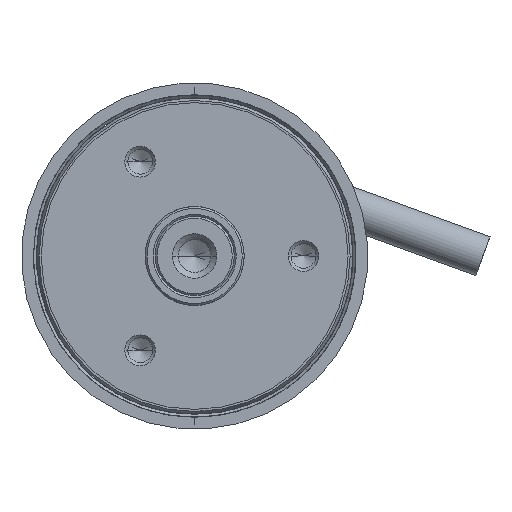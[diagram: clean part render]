
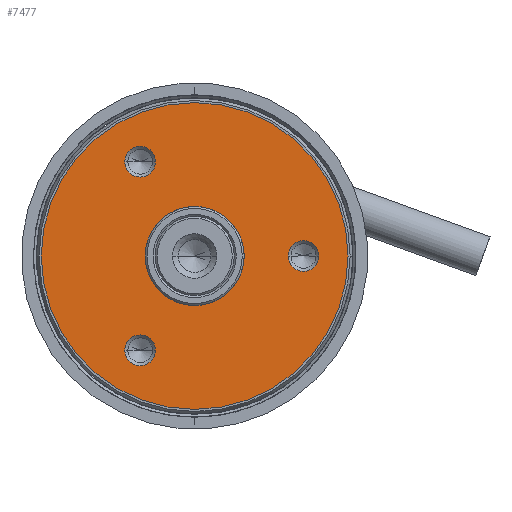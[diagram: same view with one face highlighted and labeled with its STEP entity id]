
A CAD part, left-side view. The second image highlights one B-rep face of the part: STEP entity #7477.
In plain terms, the highlighted planar face has unit normal (-1, 0, 0).
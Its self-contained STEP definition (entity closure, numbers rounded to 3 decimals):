
#76 = VERTEX_POINT ( 'NONE', #10866 ) ;
#130 = AXIS2_PLACEMENT_3D ( 'NONE', #14275, #2986, #6382 ) ;
#299 = ORIENTED_EDGE ( 'NONE', *, *, #13722, .F. ) ;
#339 = DIRECTION ( 'NONE',  ( -1., 0., 0. ) ) ;
#471 = CARTESIAN_POINT ( 'NONE',  ( -29., -11., 0. ) ) ;
#528 = AXIS2_PLACEMENT_3D ( 'NONE', #624, #10626, #11618 ) ;
#624 = CARTESIAN_POINT ( 'NONE',  ( -29., 0., 0. ) ) ;
#731 = AXIS2_PLACEMENT_3D ( 'NONE', #8389, #1706, #6449 ) ;
#792 = VERTEX_POINT ( 'NONE', #2383 ) ;
#1030 = AXIS2_PLACEMENT_3D ( 'NONE', #14404, #2182, #12266 ) ;
#1108 = EDGE_CURVE ( 'NONE', #13243, #10892, #13107, .T. ) ;
#1176 = FACE_BOUND ( 'NONE', #2559, .T. ) ;
#1447 = VERTEX_POINT ( 'NONE', #3078 ) ;
#1587 = CARTESIAN_POINT ( 'NONE',  ( -29., 5.5, -9.526 ) ) ;
#1706 = DIRECTION ( 'NONE',  ( -1., 0., 0. ) ) ;
#1973 = EDGE_LOOP ( 'NONE', ( #14328, #6158 ) ) ;
#2182 = DIRECTION ( 'NONE',  ( -1., 0., 0. ) ) ;
#2235 = EDGE_CURVE ( 'NONE', #2658, #6394, #6334, .T. ) ;
#2383 = CARTESIAN_POINT ( 'NONE',  ( -29., -15.5, 0. ) ) ;
#2559 = EDGE_LOOP ( 'NONE', ( #4447, #6383 ) ) ;
#2658 = VERTEX_POINT ( 'NONE', #4366 ) ;
#2831 = DIRECTION ( 'NONE',  ( -1., 0., 0. ) ) ;
#2876 = CIRCLE ( 'NONE', #4519, 1.55 ) ;
#2986 = DIRECTION ( 'NONE',  ( -1., 0., 0. ) ) ;
#3078 = CARTESIAN_POINT ( 'NONE',  ( -29., 3.95, -9.526 ) ) ;
#3182 = VERTEX_POINT ( 'NONE', #11636 ) ;
#3481 = PLANE ( 'NONE',  #11314 ) ;
#3548 = EDGE_LOOP ( 'NONE', ( #14294, #9459 ) ) ;
#3634 = FACE_OUTER_BOUND ( 'NONE', #1973, .T. ) ;
#3714 = EDGE_LOOP ( 'NONE', ( #12835, #9913 ) ) ;
#3743 = CARTESIAN_POINT ( 'NONE',  ( -29., 5.5, -9.526 ) ) ;
#3744 = EDGE_CURVE ( 'NONE', #6394, #2658, #6156, .T. ) ;
#3767 = CARTESIAN_POINT ( 'NONE',  ( -29., -11., 0. ) ) ;
#3957 = CARTESIAN_POINT ( 'NONE',  ( -29., -9.45, 0. ) ) ;
#4208 = CIRCLE ( 'NONE', #11916, 15.5 ) ;
#4366 = CARTESIAN_POINT ( 'NONE',  ( -29., -5., 0. ) ) ;
#4447 = ORIENTED_EDGE ( 'NONE', *, *, #3744, .F. ) ;
#4519 = AXIS2_PLACEMENT_3D ( 'NONE', #3767, #11742, #9477 ) ;
#4766 = CIRCLE ( 'NONE', #130, 1.55 ) ;
#5605 = AXIS2_PLACEMENT_3D ( 'NONE', #7690, #13340, #10975 ) ;
#5716 = FACE_BOUND ( 'NONE', #7901, .T. ) ;
#5777 = EDGE_CURVE ( 'NONE', #10892, #13243, #2876, .T. ) ;
#5987 = DIRECTION ( 'NONE',  ( 0., 1., 0. ) ) ;
#6043 = DIRECTION ( 'NONE',  ( 0., 1., 0. ) ) ;
#6156 = CIRCLE ( 'NONE', #528, 5. ) ;
#6158 = ORIENTED_EDGE ( 'NONE', *, *, #9933, .T. ) ;
#6334 = CIRCLE ( 'NONE', #731, 5. ) ;
#6374 = ORIENTED_EDGE ( 'NONE', *, *, #13784, .F. ) ;
#6382 = DIRECTION ( 'NONE',  ( 0., 1., 0. ) ) ;
#6383 = ORIENTED_EDGE ( 'NONE', *, *, #2235, .F. ) ;
#6394 = VERTEX_POINT ( 'NONE', #11951 ) ;
#6449 = DIRECTION ( 'NONE',  ( 0., 1., 0. ) ) ;
#6537 = DIRECTION ( 'NONE',  ( -1., 0., 0. ) ) ;
#6803 = CARTESIAN_POINT ( 'NONE',  ( -29., 0., 0. ) ) ;
#7314 = CIRCLE ( 'NONE', #9764, 1.55 ) ;
#7477 = ADVANCED_FACE ( 'NONE', ( #1176, #10444, #5716, #9032, #3634 ), #3481, .T. ) ;
#7557 = AXIS2_PLACEMENT_3D ( 'NONE', #471, #2831, #10660 ) ;
#7690 = CARTESIAN_POINT ( 'NONE',  ( -29., 5.5, 9.526 ) ) ;
#7901 = EDGE_LOOP ( 'NONE', ( #299, #6374 ) ) ;
#7925 = DIRECTION ( 'NONE',  ( 0., 1., 0. ) ) ;
#8364 = CIRCLE ( 'NONE', #8617, 1.55 ) ;
#8389 = CARTESIAN_POINT ( 'NONE',  ( -29., 0., 0. ) ) ;
#8613 = VERTEX_POINT ( 'NONE', #9713 ) ;
#8617 = AXIS2_PLACEMENT_3D ( 'NONE', #3743, #339, #5987 ) ;
#9032 = FACE_BOUND ( 'NONE', #3714, .T. ) ;
#9074 = CIRCLE ( 'NONE', #1030, 15.5 ) ;
#9459 = ORIENTED_EDGE ( 'NONE', *, *, #1108, .F. ) ;
#9477 = DIRECTION ( 'NONE',  ( 0., 1., 0. ) ) ;
#9713 = CARTESIAN_POINT ( 'NONE',  ( -29., 3.95, 9.526 ) ) ;
#9764 = AXIS2_PLACEMENT_3D ( 'NONE', #1587, #10434, #6043 ) ;
#9913 = ORIENTED_EDGE ( 'NONE', *, *, #13367, .F. ) ;
#9933 = EDGE_CURVE ( 'NONE', #792, #10579, #9074, .T. ) ;
#10434 = DIRECTION ( 'NONE',  ( -1., 0., 0. ) ) ;
#10444 = FACE_BOUND ( 'NONE', #3548, .T. ) ;
#10579 = VERTEX_POINT ( 'NONE', #13215 ) ;
#10626 = DIRECTION ( 'NONE',  ( -1., 0., 0. ) ) ;
#10660 = DIRECTION ( 'NONE',  ( 0., 1., 0. ) ) ;
#10866 = CARTESIAN_POINT ( 'NONE',  ( -29., 7.05, -9.526 ) ) ;
#10892 = VERTEX_POINT ( 'NONE', #3957 ) ;
#10975 = DIRECTION ( 'NONE',  ( 0., 1., 0. ) ) ;
#11187 = DIRECTION ( 'NONE',  ( 0., 1., 0. ) ) ;
#11305 = DIRECTION ( 'NONE',  ( -1., 0., 0. ) ) ;
#11314 = AXIS2_PLACEMENT_3D ( 'NONE', #6803, #11305, #7925 ) ;
#11618 = DIRECTION ( 'NONE',  ( 0., 1., 0. ) ) ;
#11636 = CARTESIAN_POINT ( 'NONE',  ( -29., 7.05, 9.526 ) ) ;
#11719 = CARTESIAN_POINT ( 'NONE',  ( -29., -12.55, 0. ) ) ;
#11742 = DIRECTION ( 'NONE',  ( -1., 0., 0. ) ) ;
#11747 = EDGE_CURVE ( 'NONE', #3182, #8613, #4766, .T. ) ;
#11916 = AXIS2_PLACEMENT_3D ( 'NONE', #14488, #6537, #11187 ) ;
#11951 = CARTESIAN_POINT ( 'NONE',  ( -29., 5., 0. ) ) ;
#12266 = DIRECTION ( 'NONE',  ( 0., 1., 0. ) ) ;
#12835 = ORIENTED_EDGE ( 'NONE', *, *, #11747, .F. ) ;
#12936 = EDGE_CURVE ( 'NONE', #10579, #792, #4208, .T. ) ;
#13107 = CIRCLE ( 'NONE', #7557, 1.55 ) ;
#13215 = CARTESIAN_POINT ( 'NONE',  ( -29., 15.5, 0. ) ) ;
#13243 = VERTEX_POINT ( 'NONE', #11719 ) ;
#13340 = DIRECTION ( 'NONE',  ( -1., 0., 0. ) ) ;
#13367 = EDGE_CURVE ( 'NONE', #8613, #3182, #13690, .T. ) ;
#13690 = CIRCLE ( 'NONE', #5605, 1.55 ) ;
#13722 = EDGE_CURVE ( 'NONE', #76, #1447, #8364, .T. ) ;
#13784 = EDGE_CURVE ( 'NONE', #1447, #76, #7314, .T. ) ;
#14275 = CARTESIAN_POINT ( 'NONE',  ( -29., 5.5, 9.526 ) ) ;
#14294 = ORIENTED_EDGE ( 'NONE', *, *, #5777, .F. ) ;
#14328 = ORIENTED_EDGE ( 'NONE', *, *, #12936, .T. ) ;
#14404 = CARTESIAN_POINT ( 'NONE',  ( -29., 0., 0. ) ) ;
#14488 = CARTESIAN_POINT ( 'NONE',  ( -29., 0., 0. ) ) ;
